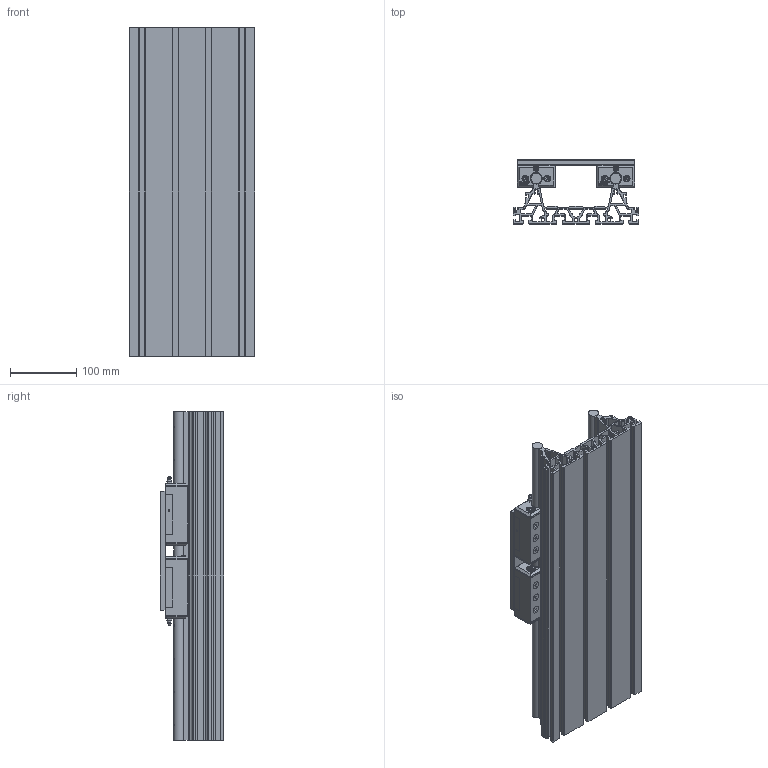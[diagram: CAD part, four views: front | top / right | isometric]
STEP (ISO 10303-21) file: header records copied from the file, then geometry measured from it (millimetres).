
FILE_DESCRIPTION (( 'STEP AP203' ), '1' );
FILE_NAME ('Linearführung LFS-16-120 ArtNr 220008 XXXX mit 4xILS 1 ArtNr 223240 0010.STEP', '2013-09-25T06:47:42', ( 'test' ), ( 'Microsoft' ), 'SwSTEP 2.0', 'SolidWorks 2012', '' );
FILE_SCHEMA (( 'CONFIG_CONTROL_DESIGN' ));
Products named in the file (1): Linearführung LFS-16-120 ArtNr 220008 XXXX mit 4xILS 1 ArtNr 223240 0010
Bounding box: 190 x 96.2 x 498 mm (x, y, z)
Surface area: 1041577.1 mm2 (no closed solid volume)
Topology: 0 solids, 84 shells, 2081 faces, 6696 edges, 4662 vertices
Faces by surface type: plane 1363, cylinder 374, cone 156, bspline 96, torus 88, sphere 4
Full cylindrical faces by diameter (mm): 3.5 x20, 4.2 x8, 5 x8, 7 x20, 7.5 x20, 8.5 x16, 10 x16, 11 x16, 11.5 x12, 16 x2
Entity records: 83999 total; most frequent: CARTESIAN_POINT 29658, ORIENTED_EDGE 10997, DIRECTION 9866, EDGE_CURVE 6242, VERTEX_POINT 4518, LINE 3774, VECTOR 3774, AXIS2_PLACEMENT_3D 3046
